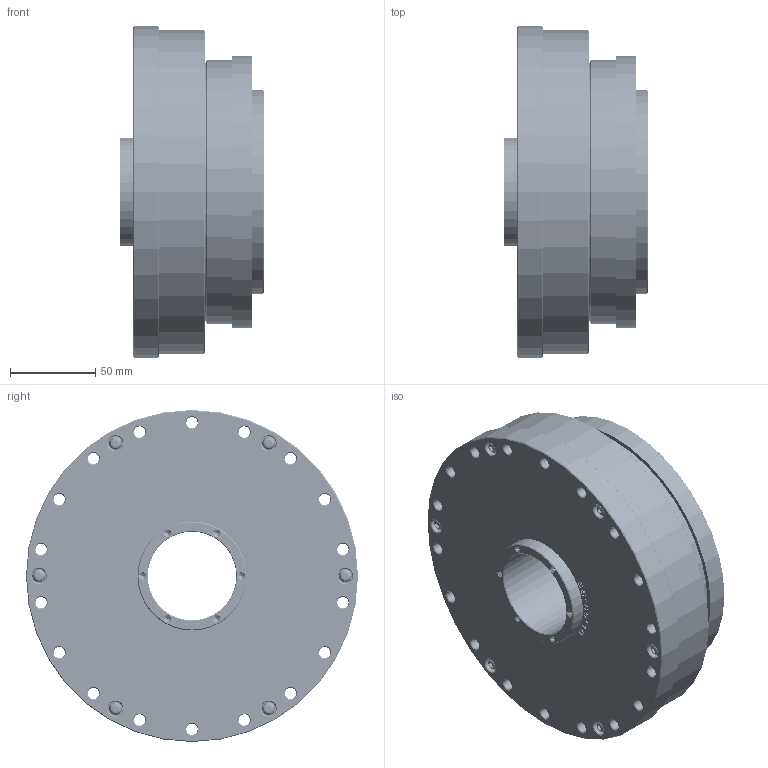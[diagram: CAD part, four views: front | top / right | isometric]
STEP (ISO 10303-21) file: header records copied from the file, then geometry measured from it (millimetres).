
FILE_DESCRIPTION(/* description */ (''),/* implementation_level */ '2;1');
FILE_NAME(/* name */ 'XBK45成品图.prt.stp',/* time_stamp */ '2022-07-21T18:14:22+08:00',/* author */ (''),/* organization */ (''),/* preprocessor_version */ 'ST-DEVELOPER v16',/* originating_system */ 'SIEMENS PLM Software NX 10.0',/* authorisation */ '');
FILE_SCHEMA (('CONFIG_CONTROL_DESIGN'));
Length unit declared in the file: millimetre
Products named in the file (19): 45-柔性轴承保持架（日标）; 6813ZZ; G59685; XBK45-2柔轮; XBK45-4-1-1销子; M5X28; YM4X14; 6913ZZ; S658510; D1521707; M4X12; XBK45-3-1凸轮; XBK45-6上盖板; XBK45-1钢轮; XBK45-4-1内芯; XBK45-4-2外圈; XBK45-7下盖板; 45-柔性轴承（日标）_MODEL; XBK45成品图
Assembly tree (26 placements, depth 3):
  XBK45成品图
    XBK45-7下盖板
    XBK45-4-2外圈
    XBK45-4-1内芯
    XBK45-1钢轮
    XBK45-6上盖板
    XBK45-3-1凸轮
    M4X12
    D1521707
    S658510
    6913ZZ
    YM4X14  x6
    M5X28  x4
    XBK45-4-1-1销子
    XBK45-2柔轮
    G59685
    45-柔性轴承（日标）_MODEL
      45-柔性轴承保持架（日标）
    6813ZZ
Bounding box: 85 x 195 x 195 mm (x, y, z)
Volume: 1285279.3 mm3; surface area: 524592.8 mm2
Topology: 50 solids, 50 shells, 1374 faces, 3708 edges, 2495 vertices
Faces by surface type: plane 430, cone 337, cylinder 331, bspline 127, extrusion 119, sphere 23, torus 7
Full cylindrical faces by diameter (mm): 4.5 x13, 5.5 x8, 6.6 x54, 7.22 x1, 7.5 x6, 8 x1, 8.5 x6, 8.72 x4, 9 x24, 9.5 x8, 52 x2, 52.5 x1, 59 x2, 62 x2, 64 x1, 65 x7, 68 x2, 69 x1, 70 x2, 77.2 x1, 79.48 x1, 80 x1, 81 x1, 81.2 x1, 85 x4, 85.18 x2, 87 x1, 87.5 x1, 90 x3, 92 x1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
Entity records: 159235 total; most frequent: CARTESIAN_POINT 130632, ORIENTED_EDGE 5106, DIRECTION 4645, EDGE_CURVE 2553, VERTEX_POINT 2058, EDGE_LOOP 2023, AXIS2_PLACEMENT_3D 2012, FACE_BOUND 1496
